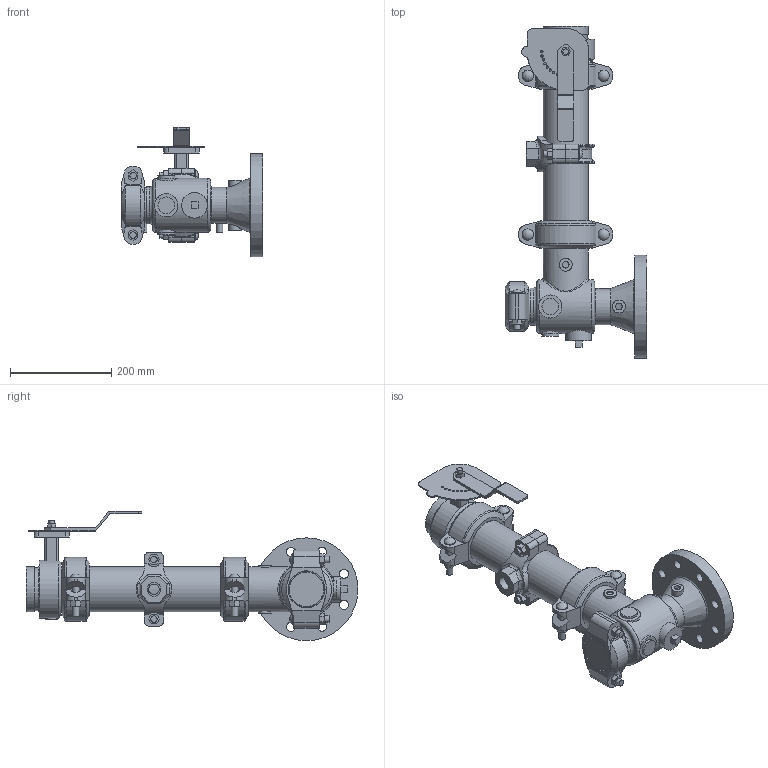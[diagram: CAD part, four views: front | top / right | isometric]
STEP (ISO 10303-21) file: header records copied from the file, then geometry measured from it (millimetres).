
FILE_DESCRIPTION(/* description */ ('VIC SVI PUMP DROP HORZ S/391 (OGSxFLG)','CAx-IF Rec.Pracs.---Representation and Presentation of Product Manufacturing Information (PMI)---4.0---2014-10-13'),/* implementation_level */ '2;1');
FILE_NAME(/* name */ 'C:\Users\kkamble\AppData\Roaming\Autodesk\ApplicationPlugins\Back Up\Victaulic_PN10_Series 391 (OGSxFLG)\Victaulic_PN10_Series 391 (OGSxFLG)_03.0x03.0 (80x80).stp',/* time_stamp */ '2020-11-26T23:43:21+05:00',/* author */ ('kkamble'),/* organization */ ('Victaulic'),/* preprocessor_version */ 'ST-DEVELOPER v17.2',/* originating_system */ 'Autodesk Inventor 2019',/* authorisation */ '');
FILE_SCHEMA (('AP242_MANAGED_MODEL_BASED_3D_ENGINEERING_MIM_LF { 1 0 10303 442 1 1 4 }'));
Length unit declared in the file: inch
Products named in the file (11): 391-03.0x03.0; 731D-03.0x03.0; 731D-03.0x03.0_1; 731D-03.0; 07-02.5; PIPE-03.0; 177N-03.0; 761-03.0; 920NT-03.0x0.75; 920N LOWER HSG-03.0; 920NT-03.0x0.75_1
Assembly tree (11 placements, depth 3):
  391-03.0x03.0
    731D-03.0x03.0
      731D-03.0x03.0_1
      731D-03.0
      07-02.5
    177N-03.0  x2
    PIPE-03.0
    761-03.0
    920NT-03.0x0.75
      920N LOWER HSG-03.0
      920NT-03.0x0.75_1
Bounding box: 279.4 x 655.57 x 255.78 mm (x, y, z)
Volume: 3983912.5 mm3; surface area: 812440.5 mm2
Topology: 9 solids, 12 shells, 583 faces, 1543 edges, 1040 vertices
Faces by surface type: plane 318, cylinder 212, torus 23, cone 17, sphere 8, bspline 5
Full cylindrical faces by diameter (mm): 4.826 x10, 8.636 x4, 10.922 x2, 12.7 x12, 13.157 x4, 18.009 x8, 20.93 x1, 21.982 x2, 22.225 x6, 22.86 x1, 25.4 x4, 26.924 x1, 33.02 x3, 45.72 x3, 50.8 x2, 52.07 x1, 55.118 x1, 57.912 x1, 66.675 x1, 69.088 x2, 71.374 x1, 72.898 x1, 73.025 x5, 76.2 x3, 77.927 x2, 84.938 x5, 88.9 x13, 106.68 x1, 114.3 x1, 203.2 x1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
Entity records: 17786 total; most frequent: CARTESIAN_POINT 4219, DIRECTION 2739, ORIENTED_EDGE 2590, EDGE_CURVE 1295, AXIS2_PLACEMENT_3D 1036, VERTEX_POINT 877, LINE 667, VECTOR 667
